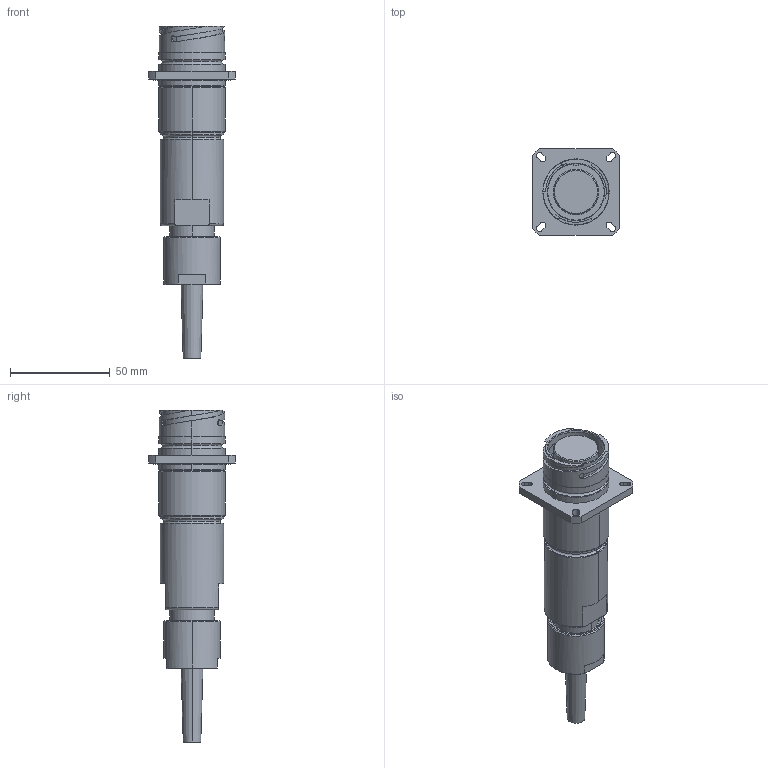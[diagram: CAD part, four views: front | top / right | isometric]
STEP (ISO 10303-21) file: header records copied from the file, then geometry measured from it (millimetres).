
FILE_DESCRIPTION (( 'STEP AP214' ), '1' );
FILE_NAME ('QLINK-RFBX-19XX-SXXX-RA.STEP', '2025-12-16T16:05:42', ( '' ), ( '' ), 'SwSTEP 2.0', 'SolidWorks 2024', '' );
FILE_SCHEMA (( 'AUTOMOTIVE_DESIGN' ));
Length unit declared in the file: millimetre
Products named in the file (1): QLINK-RFBX-19XX-SXXX-RA
Bounding box: 43.69 x 43.69 x 166.83 mm (x, y, z)
Volume: 100994.5 mm3; surface area: 24790.5 mm2
Topology: 2 solids, 2 shells, 198 faces, 475 edges, 301 vertices
Faces by surface type: cylinder 73, plane 56, torus 26, cone 25, bspline 18
Entity records: 9490 total; most frequent: CARTESIAN_POINT 4926, DIRECTION 961, ORIENTED_EDGE 950, EDGE_CURVE 475, AXIS2_PLACEMENT_3D 399, VERTEX_POINT 301, EDGE_LOOP 228, CIRCLE 218
